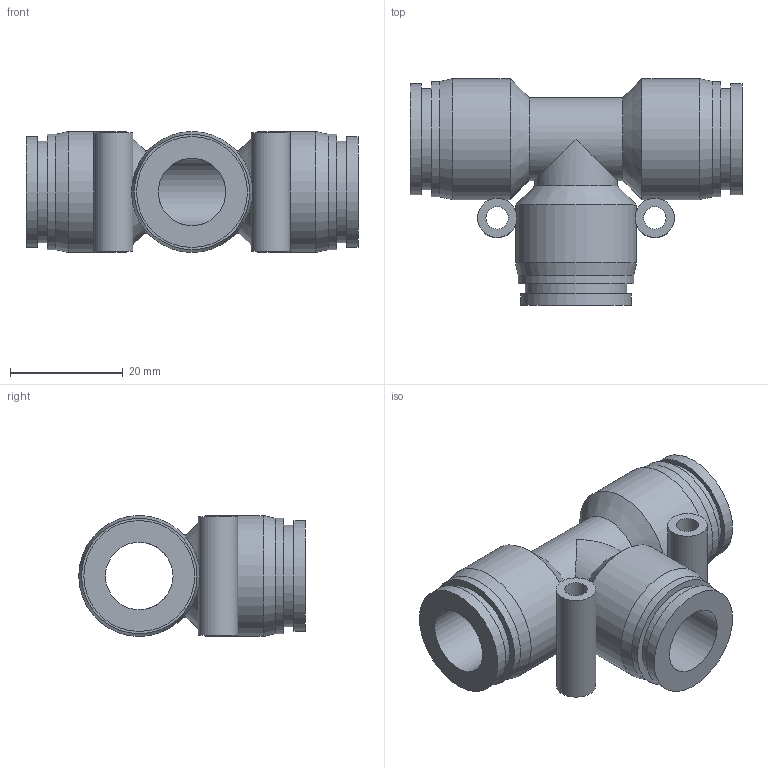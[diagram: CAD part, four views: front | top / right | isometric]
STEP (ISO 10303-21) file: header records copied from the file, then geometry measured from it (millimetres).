
FILE_DESCRIPTION((''),'2;1');
FILE_NAME('S:\UTecnico\ArchivioUT\Speciali Clienti\Speciali KONFIT\Plastica\RP\RP 55\RP550012.stp','2012-05-18T09:34:00',('UT5'),(''),'Autodesk Inventor 2012','Autodesk Inventor 2012','');
FILE_SCHEMA(('AUTOMOTIVE_DESIGN { 1 0 10303 214 1 1 1 1 }'));
Length unit declared in the file: millimetre
Products named in the file (1): RP550012
Bounding box: 59 x 40.25 x 21.5 mm (x, y, z)
Volume: 15670.8 mm3; surface area: 10594.5 mm2
Topology: 3 solids, 3 shells, 39 faces, 76 edges, 49 vertices
Faces by surface type: cylinder 20, plane 13, cone 6
Full cylindrical faces by diameter (mm): 4 x2, 7 x2, 12 x2, 14.7 x2, 18 x3, 19.7 x3, 20.5 x3, 21.5 x3
Entity records: 902 total; most frequent: DIRECTION 164, CARTESIAN_POINT 124, ORIENTED_EDGE 84, AXIS2_PLACEMENT_3D 82, EDGE_LOOP 80, VERTEX_POINT 42, EDGE_CURVE 42, FACE_BOUND 41
